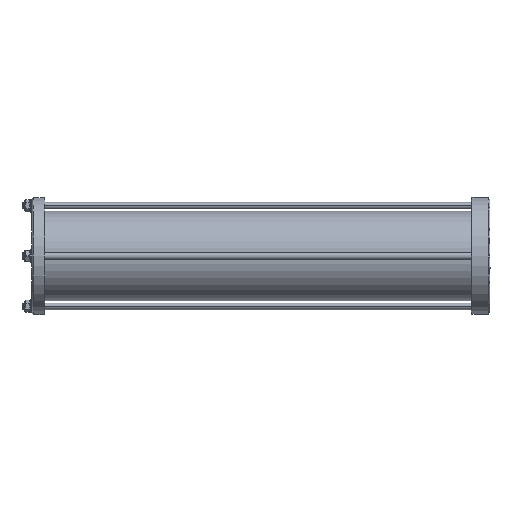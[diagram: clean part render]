
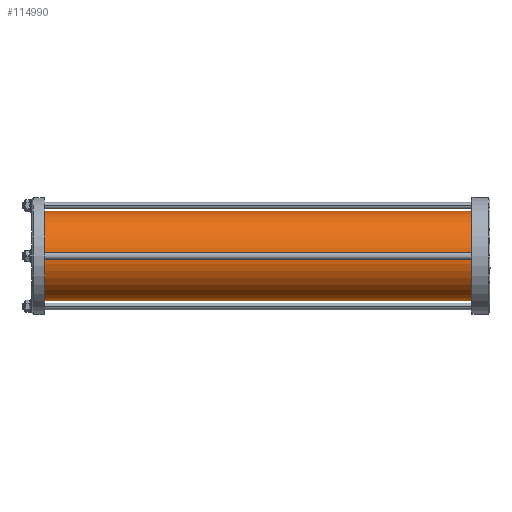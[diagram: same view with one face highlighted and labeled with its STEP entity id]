
A CAD part, left-side view. The second image highlights one B-rep face of the part: STEP entity #114990.
In plain terms, the highlighted cylindrical face has radius 41 mm (diameter 82 mm), a partial arc.
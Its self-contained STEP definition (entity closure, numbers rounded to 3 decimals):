
#5232 = DIRECTION ( 'NONE',  ( 0., -1., 0. ) ) ;
#21261 = CARTESIAN_POINT ( 'NONE',  ( 40.045, 23.458, 101.617 ) ) ;
#25026 = DIRECTION ( 'NONE',  ( 0., 0., -1. ) ) ;
#27876 = CARTESIAN_POINT ( 'NONE',  ( 40.045, 421.458, 60.617 ) ) ;
#32053 = CARTESIAN_POINT ( 'NONE',  ( 40.045, 23.458, 60.617 ) ) ;
#32697 = ORIENTED_EDGE ( 'NONE', *, *, #51762, .F. ) ;
#40834 = DIRECTION ( 'NONE',  ( 0., 1., 0. ) ) ;
#41536 = EDGE_LOOP ( 'NONE', ( #32697, #70932, #91587, #51368 ) ) ;
#43225 = CARTESIAN_POINT ( 'NONE',  ( 40.045, 421.458, 101.617 ) ) ;
#44950 = FACE_OUTER_BOUND ( 'NONE', #41536, .T. ) ;
#45942 = DIRECTION ( 'NONE',  ( 0., 0., 1. ) ) ;
#51368 = ORIENTED_EDGE ( 'NONE', *, *, #94618, .T. ) ;
#51762 = EDGE_CURVE ( 'NONE', #82996, #105423, #104310, .T. ) ;
#54736 = DIRECTION ( 'NONE',  ( 0., 1., 0. ) ) ;
#56184 = VECTOR ( 'NONE', #5232, 1000. ) ;
#60285 = AXIS2_PLACEMENT_3D ( 'NONE', #43225, #62035, #25026 ) ;
#62035 = DIRECTION ( 'NONE',  ( 0., -1., 0. ) ) ;
#67412 = CIRCLE ( 'NONE', #82301, 41. ) ;
#70932 = ORIENTED_EDGE ( 'NONE', *, *, #99029, .F. ) ;
#72176 = CARTESIAN_POINT ( 'NONE',  ( 40.045, 421.458, 142.617 ) ) ;
#77688 = DIRECTION ( 'NONE',  ( 0., 0., 1. ) ) ;
#78291 = VECTOR ( 'NONE', #95677, 1000. ) ;
#80702 = AXIS2_PLACEMENT_3D ( 'NONE', #86522, #40834, #77688 ) ;
#82301 = AXIS2_PLACEMENT_3D ( 'NONE', #21261, #54736, #45942 ) ;
#82792 = EDGE_CURVE ( 'NONE', #108898, #104167, #96232, .T. ) ;
#82996 = VERTEX_POINT ( 'NONE', #72176 ) ;
#86522 = CARTESIAN_POINT ( 'NONE',  ( 40.045, 421.458, 101.617 ) ) ;
#87435 = CARTESIAN_POINT ( 'NONE',  ( 40.045, 421.458, 60.617 ) ) ;
#87749 = CYLINDRICAL_SURFACE ( 'NONE', #60285, 41. ) ;
#91587 = ORIENTED_EDGE ( 'NONE', *, *, #82792, .T. ) ;
#94618 = EDGE_CURVE ( 'NONE', #104167, #105423, #67412, .T. ) ;
#95677 = DIRECTION ( 'NONE',  ( 0., -1., 0. ) ) ;
#96078 = CARTESIAN_POINT ( 'NONE',  ( 40.045, 421.458, 142.617 ) ) ;
#96232 = LINE ( 'NONE', #87435, #78291 ) ;
#99029 = EDGE_CURVE ( 'NONE', #108898, #82996, #106947, .T. ) ;
#104167 = VERTEX_POINT ( 'NONE', #32053 ) ;
#104310 = LINE ( 'NONE', #96078, #56184 ) ;
#104704 = CARTESIAN_POINT ( 'NONE',  ( 40.045, 23.458, 142.617 ) ) ;
#105423 = VERTEX_POINT ( 'NONE', #104704 ) ;
#106947 = CIRCLE ( 'NONE', #80702, 41. ) ;
#108898 = VERTEX_POINT ( 'NONE', #27876 ) ;
#114990 = ADVANCED_FACE ( 'NONE', ( #44950 ), #87749, .T. ) ;
